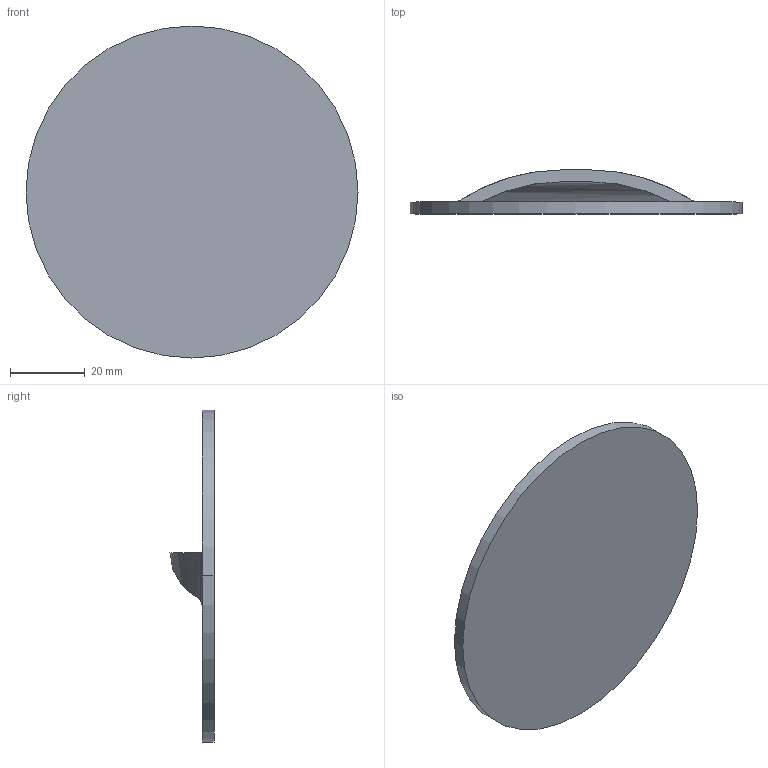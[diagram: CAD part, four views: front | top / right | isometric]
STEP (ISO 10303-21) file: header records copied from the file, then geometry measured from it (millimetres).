
FILE_DESCRIPTION (( 'STEP AP203' ), '1' );
FILE_NAME ('1985895-20.STEP', '2024-11-13T16:33:17', ( '' ), ( '' ), 'SwSTEP 2.0', 'SolidWorks 2024', '' );
FILE_SCHEMA (( 'CONFIG_CONTROL_DESIGN' ));
Length unit declared in the file: inch
Products named in the file (1): 1985895-20
Bounding box: 88.9 x 11.81 x 88.9 mm (x, y, z)
Volume: 22213.8 mm3; surface area: 14698.2 mm2
Topology: 1 solids, 1 shells, 14 faces, 33 edges, 22 vertices
Faces by surface type: cylinder 11, plane 3
Entity records: 548 total; most frequent: CARTESIAN_POINT 150, ORIENTED_EDGE 66, DIRECTION 65, EDGE_CURVE 33, AXIS2_PLACEMENT_3D 25, VERTEX_POINT 22, LINE 15, VECTOR 15
